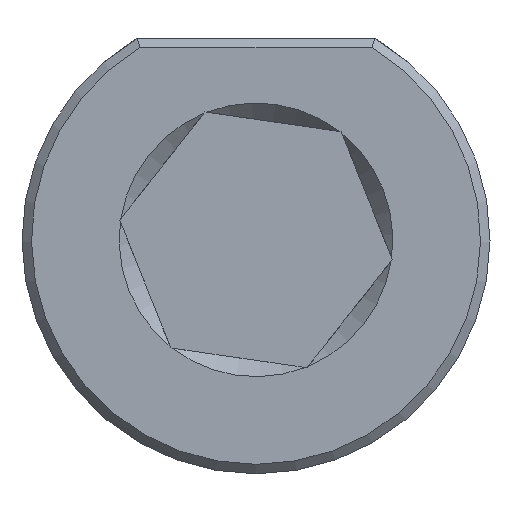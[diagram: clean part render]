
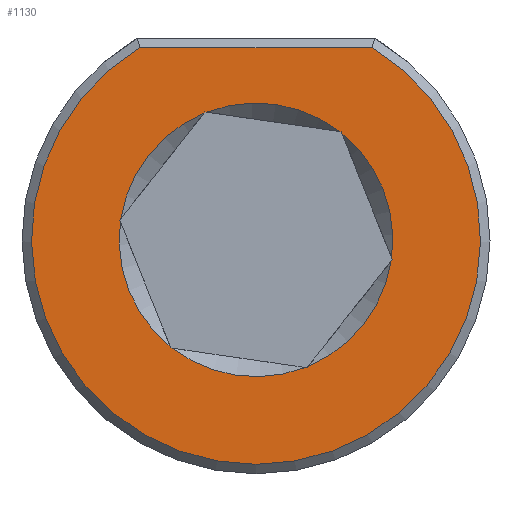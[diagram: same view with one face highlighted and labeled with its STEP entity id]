
A CAD part, front view. The second image highlights one B-rep face of the part: STEP entity #1130.
In plain terms, the highlighted planar face has unit normal (0, -1, 0).
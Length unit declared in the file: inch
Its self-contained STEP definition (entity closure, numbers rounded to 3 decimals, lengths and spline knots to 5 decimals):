
#42=FACE_BOUND('',#190,.T.);
#60=PLANE('',#1253);
#123=FACE_OUTER_BOUND('',#189,.T.);
#189=EDGE_LOOP('',(#854,#855));
#190=EDGE_LOOP('',(#856,#857,#858,#859,#860,#861,#862,#863,#864,#865,#866,
#867,#868,#869,#870,#871,#872,#873));
#288=LINE('',#2065,#349);
#290=LINE('',#2082,#351);
#291=LINE('',#2084,#352);
#292=LINE('',#2088,#353);
#293=LINE('',#2090,#354);
#294=LINE('',#2094,#355);
#295=LINE('',#2096,#356);
#296=LINE('',#2100,#357);
#297=LINE('',#2102,#358);
#298=LINE('',#2106,#359);
#299=LINE('',#2108,#360);
#300=LINE('',#2112,#361);
#301=LINE('',#2114,#362);
#349=VECTOR('',#1453,0.3937);
#351=VECTOR('',#1465,0.3937);
#352=VECTOR('',#1466,0.3937);
#353=VECTOR('',#1469,0.3937);
#354=VECTOR('',#1470,0.3937);
#355=VECTOR('',#1473,0.3937);
#356=VECTOR('',#1474,0.3937);
#357=VECTOR('',#1477,0.3937);
#358=VECTOR('',#1478,0.3937);
#359=VECTOR('',#1481,0.3937);
#360=VECTOR('',#1482,0.3937);
#361=VECTOR('',#1485,0.3937);
#362=VECTOR('',#1486,0.3937);
#408=CIRCLE('',#1250,0.4725);
#410=CIRCLE('',#1254,0.288);
#411=CIRCLE('',#1255,0.288);
#412=CIRCLE('',#1256,0.288);
#413=CIRCLE('',#1257,0.288);
#414=CIRCLE('',#1258,0.288);
#415=CIRCLE('',#1259,0.288);
#510=VERTEX_POINT('',#2063);
#511=VERTEX_POINT('',#2064);
#512=VERTEX_POINT('',#2080);
#513=VERTEX_POINT('',#2081);
#514=VERTEX_POINT('',#2083);
#515=VERTEX_POINT('',#2085);
#516=VERTEX_POINT('',#2087);
#517=VERTEX_POINT('',#2089);
#518=VERTEX_POINT('',#2091);
#519=VERTEX_POINT('',#2093);
#520=VERTEX_POINT('',#2095);
#521=VERTEX_POINT('',#2097);
#522=VERTEX_POINT('',#2099);
#523=VERTEX_POINT('',#2101);
#524=VERTEX_POINT('',#2103);
#525=VERTEX_POINT('',#2105);
#526=VERTEX_POINT('',#2107);
#527=VERTEX_POINT('',#2109);
#528=VERTEX_POINT('',#2111);
#529=VERTEX_POINT('',#2113);
#641=EDGE_CURVE('',#510,#511,#288,.T.);
#645=EDGE_CURVE('',#511,#510,#408,.T.);
#647=EDGE_CURVE('',#512,#513,#290,.T.);
#648=EDGE_CURVE('',#513,#514,#291,.T.);
#649=EDGE_CURVE('',#515,#514,#410,.T.);
#650=EDGE_CURVE('',#515,#516,#292,.T.);
#651=EDGE_CURVE('',#516,#517,#293,.T.);
#652=EDGE_CURVE('',#518,#517,#411,.T.);
#653=EDGE_CURVE('',#518,#519,#294,.T.);
#654=EDGE_CURVE('',#519,#520,#295,.T.);
#655=EDGE_CURVE('',#521,#520,#412,.T.);
#656=EDGE_CURVE('',#521,#522,#296,.T.);
#657=EDGE_CURVE('',#522,#523,#297,.T.);
#658=EDGE_CURVE('',#524,#523,#413,.T.);
#659=EDGE_CURVE('',#524,#525,#298,.T.);
#660=EDGE_CURVE('',#525,#526,#299,.T.);
#661=EDGE_CURVE('',#527,#526,#414,.T.);
#662=EDGE_CURVE('',#527,#528,#300,.T.);
#663=EDGE_CURVE('',#528,#529,#301,.T.);
#664=EDGE_CURVE('',#512,#529,#415,.T.);
#854=ORIENTED_EDGE('',*,*,#641,.F.);
#855=ORIENTED_EDGE('',*,*,#645,.F.);
#856=ORIENTED_EDGE('',*,*,#647,.T.);
#857=ORIENTED_EDGE('',*,*,#648,.T.);
#858=ORIENTED_EDGE('',*,*,#649,.F.);
#859=ORIENTED_EDGE('',*,*,#650,.T.);
#860=ORIENTED_EDGE('',*,*,#651,.T.);
#861=ORIENTED_EDGE('',*,*,#652,.F.);
#862=ORIENTED_EDGE('',*,*,#653,.T.);
#863=ORIENTED_EDGE('',*,*,#654,.T.);
#864=ORIENTED_EDGE('',*,*,#655,.F.);
#865=ORIENTED_EDGE('',*,*,#656,.T.);
#866=ORIENTED_EDGE('',*,*,#657,.T.);
#867=ORIENTED_EDGE('',*,*,#658,.F.);
#868=ORIENTED_EDGE('',*,*,#659,.T.);
#869=ORIENTED_EDGE('',*,*,#660,.T.);
#870=ORIENTED_EDGE('',*,*,#661,.F.);
#871=ORIENTED_EDGE('',*,*,#662,.T.);
#872=ORIENTED_EDGE('',*,*,#663,.T.);
#873=ORIENTED_EDGE('',*,*,#664,.F.);
#1130=ADVANCED_FACE('',(#123,#42),#60,.T.);
#1250=AXIS2_PLACEMENT_3D('',#2076,#1457,#1458);
#1253=AXIS2_PLACEMENT_3D('',#2079,#1463,#1464);
#1254=AXIS2_PLACEMENT_3D('',#2086,#1467,#1468);
#1255=AXIS2_PLACEMENT_3D('',#2092,#1471,#1472);
#1256=AXIS2_PLACEMENT_3D('',#2098,#1475,#1476);
#1257=AXIS2_PLACEMENT_3D('',#2104,#1479,#1480);
#1258=AXIS2_PLACEMENT_3D('',#2110,#1483,#1484);
#1259=AXIS2_PLACEMENT_3D('',#2115,#1487,#1488);
#1453=DIRECTION('',(1.,0.,0.));
#1457=DIRECTION('center_axis',(0.,1.,0.));
#1458=DIRECTION('ref_axis',(0.,0.,-1.));
#1463=DIRECTION('center_axis',(0.,-1.,0.));
#1464=DIRECTION('ref_axis',(0.,0.,-1.));
#1465=DIRECTION('',(0.37,0.,-0.929));
#1466=DIRECTION('',(-0.619,0.,-0.785));
#1467=DIRECTION('center_axis',(0.,-1.,0.));
#1468=DIRECTION('ref_axis',(0.,0.,1.));
#1469=DIRECTION('',(-0.619,0.,-0.785));
#1470=DIRECTION('',(-0.99,0.,0.144));
#1471=DIRECTION('center_axis',(0.,-1.,0.));
#1472=DIRECTION('ref_axis',(0.,0.,1.));
#1473=DIRECTION('',(-0.99,0.,0.144));
#1474=DIRECTION('',(-0.37,0.,0.929));
#1475=DIRECTION('center_axis',(0.,-1.,0.));
#1476=DIRECTION('ref_axis',(0.,0.,1.));
#1477=DIRECTION('',(-0.37,0.,0.929));
#1478=DIRECTION('',(0.619,0.,0.785));
#1479=DIRECTION('center_axis',(0.,-1.,0.));
#1480=DIRECTION('ref_axis',(0.,0.,1.));
#1481=DIRECTION('',(0.619,0.,0.785));
#1482=DIRECTION('',(0.99,0.,-0.144));
#1483=DIRECTION('center_axis',(0.,-1.,0.));
#1484=DIRECTION('ref_axis',(0.,0.,1.));
#1485=DIRECTION('',(0.99,0.,-0.144));
#1486=DIRECTION('',(0.37,0.,-0.929));
#1487=DIRECTION('center_axis',(0.,-1.,0.));
#1488=DIRECTION('ref_axis',(0.,0.,1.));
#2063=CARTESIAN_POINT('',(-0.2442,0.,0.4045));
#2064=CARTESIAN_POINT('',(0.2442,0.,0.4045));
#2065=CARTESIAN_POINT('',(0.12486,0.,0.4045));
#2076=CARTESIAN_POINT('Origin',(0.,0.,0.));
#2079=CARTESIAN_POINT('Origin',(0.,0.,-0.248));
#2080=CARTESIAN_POINT('',(0.28546,0.,-0.03818));
#2081=CARTESIAN_POINT('',(0.28683,0.,-0.04162));
#2082=CARTESIAN_POINT('',(0.24897,0.,0.05331));
#2083=CARTESIAN_POINT('',(0.28454,0.,-0.04452));
#2084=CARTESIAN_POINT('',(0.18167,0.,-0.17498));
#2085=CARTESIAN_POINT('',(0.10966,0.,-0.26631));
#2086=CARTESIAN_POINT('Origin',(0.,0.,0.));
#2087=CARTESIAN_POINT('',(0.10737,0.,-0.26921));
#2088=CARTESIAN_POINT('',(0.18167,0.,-0.17498));
#2089=CARTESIAN_POINT('',(0.10372,0.,-0.26868));
#2090=CARTESIAN_POINT('',(0.05329,0.,-0.26136));
#2091=CARTESIAN_POINT('',(-0.1758,0.,-0.22812));
#2092=CARTESIAN_POINT('Origin',(0.,0.,0.));
#2093=CARTESIAN_POINT('',(-0.17945,0.,-0.22759));
#2094=CARTESIAN_POINT('',(0.05329,0.,-0.26136));
#2095=CARTESIAN_POINT('',(-0.18082,0.,-0.22416));
#2096=CARTESIAN_POINT('',(-0.16363,0.,-0.26727));
#2097=CARTESIAN_POINT('',(-0.28546,0.,0.03818));
#2098=CARTESIAN_POINT('Origin',(0.,0.,0.));
#2099=CARTESIAN_POINT('',(-0.28683,0.,0.04162));
#2100=CARTESIAN_POINT('',(-0.16363,0.,-0.26727));
#2101=CARTESIAN_POINT('',(-0.28454,0.,0.04452));
#2102=CARTESIAN_POINT('',(-0.30225,0.,0.02205));
#2103=CARTESIAN_POINT('',(-0.10966,0.,0.26631));
#2104=CARTESIAN_POINT('Origin',(0.,0.,0.));
#2105=CARTESIAN_POINT('',(-0.10737,0.,0.26921));
#2106=CARTESIAN_POINT('',(-0.30225,0.,0.02205));
#2107=CARTESIAN_POINT('',(-0.10372,0.,0.26868));
#2108=CARTESIAN_POINT('',(-0.01805,0.,0.25625));
#2109=CARTESIAN_POINT('',(0.1758,0.,0.22812));
#2110=CARTESIAN_POINT('Origin',(0.,0.,0.));
#2111=CARTESIAN_POINT('',(0.17945,0.,0.22759));
#2112=CARTESIAN_POINT('',(-0.01805,0.,0.25625));
#2113=CARTESIAN_POINT('',(0.18082,0.,0.22416));
#2114=CARTESIAN_POINT('',(0.24897,0.,0.05331));
#2115=CARTESIAN_POINT('Origin',(0.,0.,0.));
